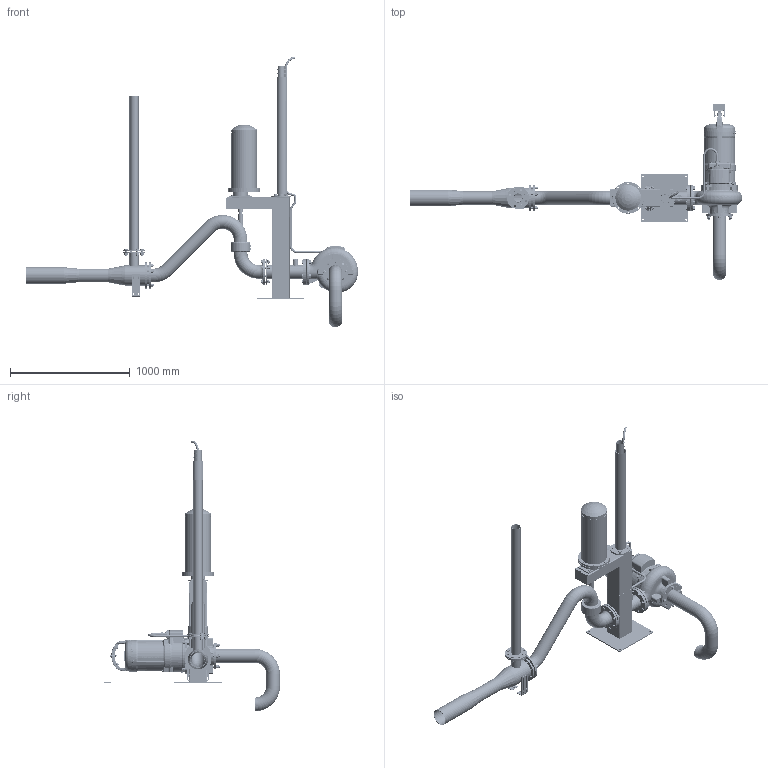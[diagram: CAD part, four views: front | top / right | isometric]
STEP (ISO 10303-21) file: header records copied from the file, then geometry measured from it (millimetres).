
FILE_DESCRIPTION(/* description */ (''),/* implementation_level */ '2;1');
FILE_NAME(/* name */ 'H:\3D\Projekte\@Schwenkjet\Schwenker_DN100\Step_Dateien\SwingAmajet_100_Gully_suction_01_KA_16.stp',/* time_stamp */ '2021-04-12T22:56:04+02:00',/* author */ ('emmrpat'),/* organization */ (''),/* preprocessor_version */ 'ST-DEVELOPER v18',/* originating_system */ 'Autodesk Inventor 2020',/* authorisation */ '');
FILE_SCHEMA (('AUTOMOTIVE_DESIGN { 1 0 10303 214 3 1 1 }'));
Length unit declared in the file: millimetre
Products named in the file (49): SwingAmajet_100_Horizontale_Aufstellung_01_V04; Neuer_Antriebsstaender_0Grad; Neuer_Antriebsstaender; Antriebsstaender_neu; Vorschweißbördel_30mm_DN100_PN10; Losflansch_DN100_PN10_20mm; DN100_01; Blindmuffe_1_1-4zoll; Muffe_1_1-4zoll_gegossen; Drehantrieb_600mm; 936100009_Kabelführungsrohr_Montageanleitung; Kabelschutzrohr_Montageanleitung; 0-05011-00-000-0-IFG-Buckelgelenk-DN100-ZSB_Teil_01; Adapterplatte_DN100_936100008; 0-05011-00-000-0-IFG-Buckelgelenk-DN100-ZSB_Teil_02; Antriebswelle; ISO 4017 - M16 x 30; ISO 4017 - M16 x 60; ISO 7089 -  10; ISO 4017 - M10 x 20; Stift_10x40mm; ISO 4017 - M16 x 70; Frankfurter-Injektor; Frankfurter-Injektor_1; Glattflansch DN100-PN10; Glattflansch_DN65_PN10_10mm_8Loch; Frankfurter-Injektor_DN65_500mm; Frankfurter-Injektor_Winkelhalter; ISO 7089 -  8; ISO 4017 - M8 x 20; ISO 4017 - M16 x 50; Kabelbinder_lueftung_einfach; Kabel_18mm_1000lang; Kabel_18mm_Bogen; Kabel_18mm_Bogen_45Grad; KRT_100-250; UG155595214_01; Kabel_18mm_100lang; Kabel_18mm_Bogen_01; Kabel_18mm_300lang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
Assembly tree (138 placements, depth 4):
  SwingAmajet_100_Horizontale_Aufstellung_01_V04
    Neuer_Antriebsstaender_0Grad
      Neuer_Antriebsstaender
        Antriebsstaender_neu
        Glattflansch DN100-PN10
        Vorschweißbördel_30mm_DN100_PN10
        Losflansch_DN100_PN10_20mm
        DN100_01
        Blindmuffe_1_1-4zoll
        Muffe_1_1-4zoll_gegossen
      Drehantrieb_600mm
      936100009_Kabelführungsrohr_Montageanleitung
      Kabelschutzrohr_Montageanleitung
      0-05011-00-000-0-IFG-Buckelgelenk-DN100-ZSB_Teil_01
      Adapterplatte_DN100_936100008
      0-05011-00-000-0-IFG-Buckelgelenk-DN100-ZSB_Teil_02
      Antriebswelle
      ISO 4017 - M16 x 30  x4
      ISO 7089 -  16  x20
      ISO 4032 - M16  x8
      ISO 4017 - M16 x 60  x4
      ISO 7089 -  10  x4
      ISO 4017 - M10 x 20  x4
      Stift_10x40mm
      ISO 4017 - M16 x 70  x4
    Frankfurter-Injektor
      Frankfurter-Injektor_1
      Glattflansch DN100-PN10
      Glattflansch_DN65_PN10_10mm_8Loch  x2
      Frankfurter-Injektor_DN65_500mm
      Frankfurter-Injektor_Winkelhalter  x2
    ISO 7089 -  8  x4
    ISO 4017 - M8 x 20  x4
    DIN 938 - M16 x 60  x8
    ISO 4032 - M16  x12
    ISO 7089 -  16  x12
    ISO 4017 - M16 x 50  x4
    Kabelbinder_lueftung_einfach  x2
    Kabel_18mm_1000lang
    Kabel_18mm_Bogen
    Kabel_18mm_Bogen_45Grad  x2
    Kabel_18mm_Bogen_01  x4
    KRT_100-250
    UG155595214_01
    Kabel_18mm_100lang
    Kabel_18mm_300lang
    Kabel_18mm_140lang
    Kabel
    Kabelbinder_A-Staender_einfach_a  x2
    Stützwinkel_neu_01
    Ansaugung_936100_V4_DN100_ohne_Flansch
    Glattflansch DN100-PN10_1
Bounding box: 2778.19 x 1471.15 x 2263.15 mm (x, y, z)
Volume: 52151053.5 mm3; surface area: 10270603.5 mm2
Topology: 208 solids, 208 shells, 4041 faces, 9688 edges, 6180 vertices
Faces by surface type: plane 1532, cylinder 1025, bspline 667, cone 479, torus 297, sphere 41
Full cylindrical faces by diameter (mm): 3 x12, 3.05 x2, 3.3 x1, 4 x12, 5 x12, 6 x16, 6.8 x1, 7 x24, 8 x8, 8.376 x2, 8.4 x4, 8.5 x6, 10 x18, 10.5 x6, 11 x10, 11.5 x6, 11.63 x4, 12 x18, 13.378 x1, 13.835 x24, 14.63 x6, 15.25 x1, 16 x59, 16.4 x2, 16.662 x1, 16.917 x2, 17 x36, 17.1 x1, 17.5 x4, 18 x97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
Entity records: 135592 total; most frequent: CARTESIAN_POINT 60020, ORIENTED_EDGE 14940, DIRECTION 14736, EDGE_CURVE 7470, AXIS2_PLACEMENT_3D 6109, VERTEX_POINT 4777, EDGE_LOOP 3685, CIRCLE 3294
